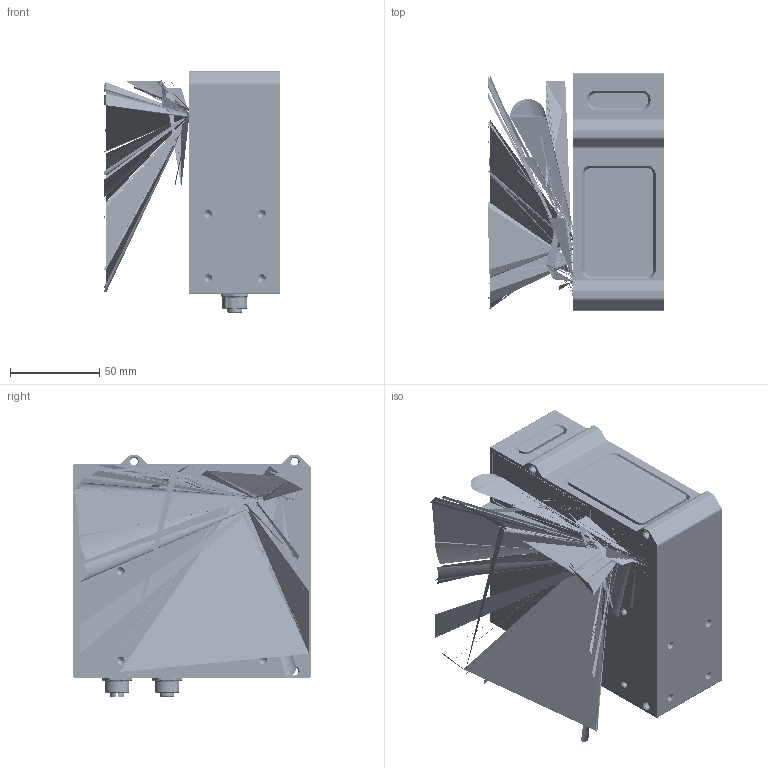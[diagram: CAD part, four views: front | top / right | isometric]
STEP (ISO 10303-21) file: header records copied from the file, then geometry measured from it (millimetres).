
FILE_DESCRIPTION (( 'STEP AP214' ), '1' );
FILE_NAME ('AZ2S3SB_2027-08-13_02.step', '2024-08-13T14:50:35', ( '' ), ( '' ), 'SwSTEP 2.0', 'SolidWorks 2022', '' );
FILE_SCHEMA (( 'AUTOMOTIVE_DESIGN' ));
Length unit declared in the file: millimetre
Products named in the file (40): Recycling_AZ2.a; Zebra_AltiZ_logo3c_a; 3569-06-00.a_Défaut; 3569-06-00.a; ISO14581-0308-ZTB; 3514-06-00.a_Défaut; Hot Symbol_White_3513.a; LASER_symbol_3575.a; 3513-06-00.a; Reference Point SFNC V2.4a_2022-06-03a; 1424180-2023-11-24.p1; 3514-06-00.a_LE; AZ2S5SB.a_Défaut; Power_AZ2.a; Caution Symbol Driven_small.3513.a; 3524-06-00.a_AZ2S5SB-Proto; 3514-06-00.a_LE_Défaut; 1424199-2023-11-24.p1; LEDs Laser Engraving.a; YHWDPART0020; 3513-10-00.a-E1; 7611-05-02.p1_M12 Only; 3569-10-00.a; 3513-06-00.a_Défaut; Ground Laser Engraving.a; 1552243-415450; 3575-06-01.a; 1552243-415480SLDPRT; 515-1016F; 3520-06-00.a; 3524-06-00.a_template03_Proto; Zebra_AltiZ2_a; 3514-06-00.a; 3575-06-01.a_Défaut; 3524-06-00.a; 3524-06-00.a_proto_Prototype; 1552243-1; 3524-06-00.a_template02_Prototype; AZ2S3SB_2027-08-13_02; AZ2S5SB.a._AZ2S5SB
Assembly tree (52 placements, depth 4):
  AZ2S3SB_2027-08-13_02
    3513-06-00.a_Défaut
      3513-06-00.a
      Ground Laser Engraving.a
      LEDs Laser Engraving.a
      3513-10-00.a-E1
      Hot Symbol_White_3513.a
      Caution Symbol Driven_small.3513.a
    ISO14581-0308-ZTB  x8
    3514-06-00.a_Défaut
      3514-06-00.a
      3514-06-00.a_LE_Défaut
        3514-06-00.a_LE
        Reference Point SFNC V2.4a_2022-06-03a
        Zebra_AltiZ_logo3c_a
    3520-06-00.a
    3569-06-00.a_Défaut
      3569-06-00.a
      3569-10-00.a
    7611-05-02.p1_M12 Only
      1424180-2023-11-24.p1
      1424199-2023-11-24.p1
    515-1016F  x4
    1552243-1  x2
    1552243-415450  x2
    1552243-415480SLDPRT  x2
    YHWDPART0020
    3575-06-01.a_Défaut
      3575-06-01.a
      LASER_symbol_3575.a
    3524-06-00.a_AZ2S5SB-Proto
      3524-06-00.a
      3524-06-00.a_template03_Proto
        3524-06-00.a_template02_Prototype
        Zebra_AltiZ2_a
      3524-06-00.a_proto_Prototype
      Recycling_AZ2.a
      Power_AZ2.a
      AZ2S5SB.a_Défaut
        AZ2S5SB.a._AZ2S5SB
Bounding box: 99.01 x 133 x 135.25 mm (x, y, z)
Volume: 265009.7 mm3; surface area: 151311.8 mm2
Topology: 544 solids, 546 shells, 16482 faces, 43069 edges, 28495 vertices
Faces by surface type: plane 9216, bspline 5530, cylinder 1277, cone 450, torus 9
Entity records: 831996 total; most frequent: CARTESIAN_POINT 392683, ORIENTED_EDGE 83685, DIRECTION 53827, EDGE_CURVE 41851, LINE 27943, VECTOR 27943, VERTEX_POINT 27711, EDGE_LOOP 17250
